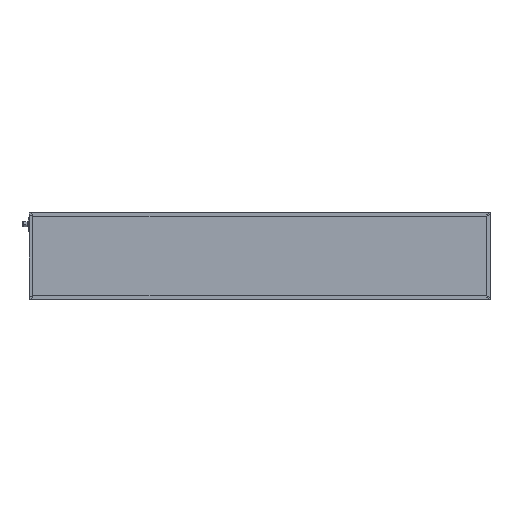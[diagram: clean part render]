
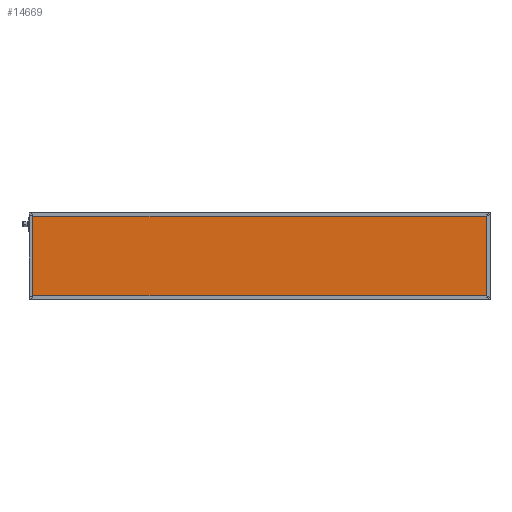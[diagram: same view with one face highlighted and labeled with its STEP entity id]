
A CAD part, top view. The second image highlights one B-rep face of the part: STEP entity #14669.
In plain terms, the highlighted planar face has unit normal (0, 0, 1).
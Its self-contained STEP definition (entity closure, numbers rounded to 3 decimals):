
#73 = EDGE_CURVE ( 'NONE', #12390, #8440, #5174, .T. ) ;
#691 = LINE ( 'NONE', #12725, #17124 ) ;
#1082 = EDGE_CURVE ( 'NONE', #12358, #12294, #6063, .T. ) ;
#1308 = FACE_OUTER_BOUND ( 'NONE', #16461, .T. ) ;
#2702 = CARTESIAN_POINT ( 'NONE',  ( 1096., 196., 41.85 ) ) ;
#4249 = EDGE_CURVE ( 'NONE', #8440, #12358, #13772, .T. ) ;
#4330 = VECTOR ( 'NONE', #4375, 1000. ) ;
#4375 = DIRECTION ( 'NONE',  ( 0., 1., 0. ) ) ;
#5174 = LINE ( 'NONE', #7441, #10437 ) ;
#5997 = CARTESIAN_POINT ( 'NONE',  ( 4., 4., 41.85 ) ) ;
#6063 = LINE ( 'NONE', #12523, #10484 ) ;
#6536 = DIRECTION ( 'NONE',  ( 0., 0., -1. ) ) ;
#6627 = PLANE ( 'NONE',  #13633 ) ;
#7441 = CARTESIAN_POINT ( 'NONE',  ( 0., 4., 41.85 ) ) ;
#7848 = CARTESIAN_POINT ( 'NONE',  ( 0., 0., 41.85 ) ) ;
#8440 = VERTEX_POINT ( 'NONE', #9381 ) ;
#9381 = CARTESIAN_POINT ( 'NONE',  ( 1096., 4., 41.85 ) ) ;
#10437 = VECTOR ( 'NONE', #15708, 1000. ) ;
#10484 = VECTOR ( 'NONE', #15295, 1000. ) ;
#11282 = EDGE_CURVE ( 'NONE', #12294, #12390, #691, .T. ) ;
#11737 = ORIENTED_EDGE ( 'NONE', *, *, #11282, .T. ) ;
#12114 = CARTESIAN_POINT ( 'NONE',  ( 4., 196., 41.85 ) ) ;
#12294 = VERTEX_POINT ( 'NONE', #12114 ) ;
#12358 = VERTEX_POINT ( 'NONE', #2702 ) ;
#12390 = VERTEX_POINT ( 'NONE', #5997 ) ;
#12523 = CARTESIAN_POINT ( 'NONE',  ( 0., 196., 41.85 ) ) ;
#12725 = CARTESIAN_POINT ( 'NONE',  ( 4., 0., 41.85 ) ) ;
#13633 = AXIS2_PLACEMENT_3D ( 'NONE', #7848, #6536, #16907 ) ;
#13772 = LINE ( 'NONE', #15161, #4330 ) ;
#14113 = DIRECTION ( 'NONE',  ( 0., -1., 0. ) ) ;
#14669 = ADVANCED_FACE ( 'NONE', ( #1308 ), #6627, .F. ) ;
#15161 = CARTESIAN_POINT ( 'NONE',  ( 1096., 0., 41.85 ) ) ;
#15289 = ORIENTED_EDGE ( 'NONE', *, *, #1082, .T. ) ;
#15295 = DIRECTION ( 'NONE',  ( -1., 0., 0. ) ) ;
#15613 = ORIENTED_EDGE ( 'NONE', *, *, #4249, .T. ) ;
#15708 = DIRECTION ( 'NONE',  ( 1., 0., 0. ) ) ;
#16461 = EDGE_LOOP ( 'NONE', ( #15613, #15289, #11737, #17015 ) ) ;
#16907 = DIRECTION ( 'NONE',  ( -1., 0., 0. ) ) ;
#17015 = ORIENTED_EDGE ( 'NONE', *, *, #73, .T. ) ;
#17124 = VECTOR ( 'NONE', #14113, 1000. ) ;
